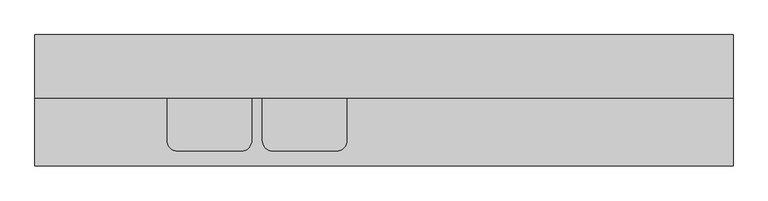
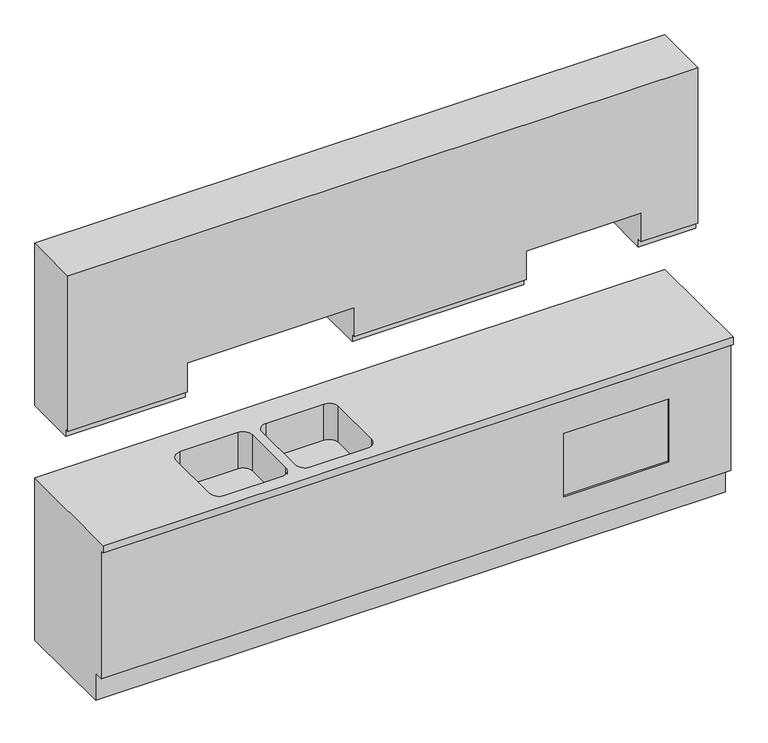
"""IFC4 building model written with IfcOpenShell, lengths in millimetres: furniture geometry, NL_73_aanrechtblok : met kastjes zonder koken."""

import ifcopenshell
import ifcopenshell.guid

model = None  # the IFC model being written
_history = None  # IfcOwnerHistory: only IFC2X3 demands one
_inside = {}  # id of a spatial element -> (the spatial element, [elements in it])
_under = {}  # id of a project, library or spatial element -> (it, [spatial elements below it])
_declared = {}  # id of a project -> (the project, [libraries it declares])
_typed = {}  # id of a type object -> (the type object, [elements of that type])
_made_of = {}  # id of a material, layer set ... -> (it, [elements and type objects made of it])


def new_model(schema):
    """Start an empty IFC model of exactly this schema.

    Asked for "IFC4X3", IfcOpenShell would pick the latest addendum, in which some entities
    have other attributes; the version numbers below select the first issue.
    IFC2X3 requires an IfcOwnerHistory on every rooted entity: one is made here for all.
    """
    global model, _history
    if schema == "IFC4X3":
        model = ifcopenshell.file(schema_version=(4, 3, 0, 0))
    else:
        model = ifcopenshell.file(schema=schema)
    _inside.clear()
    _under.clear()
    _declared.clear()
    _typed.clear()
    _made_of.clear()
    _history = None
    if model.schema == "IFC2X3":
        org = make("IfcOrganization", Name="unknown")
        user = make(
            "IfcPersonAndOrganization",
            ThePerson=make("IfcPerson", FamilyName="unknown"),
            TheOrganization=org,
        )
        app = make(
            "IfcApplication",
            ApplicationDeveloper=org,
            Version="unknown",
            ApplicationFullName="unknown",
            ApplicationIdentifier="unknown",
        )
        _history = make(
            "IfcOwnerHistory",
            OwningUser=user,
            OwningApplication=app,
            ChangeAction="ADDED",
            CreationDate=0,
        )
    return model


def make(cls, **values):
    """One entity of the class cls with the attributes given. An attribute that is None is left unset."""
    return model.create_entity(
        cls, **{name: value for name, value in values.items() if value is not None}
    )


def rooted(cls, **values):
    """An entity with a GlobalId (a new one), such as an element, a storey or a relation."""
    return make(cls, GlobalId=ifcopenshell.guid.new(), OwnerHistory=_history, **values)


def si_unit(unit_type, name, prefix=None):
    """IfcSIUnit, for example si_unit("LENGTHUNIT", "METRE", prefix="MILLI")."""
    return make("IfcSIUnit", UnitType=unit_type, Prefix=prefix, Name=name)


def assignment(units):
    """IfcUnitAssignment: the units of a project."""
    return None if units is None else make("IfcUnitAssignment", Units=units)


def point(xyz):
    """IfcCartesianPoint."""
    return None if xyz is None else make("IfcCartesianPoint", Coordinates=xyz)


def direction(xyz):
    """IfcDirection."""
    return None if xyz is None else make("IfcDirection", DirectionRatios=xyz)


def frame(location, z_axis=None, x_axis=None):
    """IfcAxis2Placement3D, a coordinate frame: its origin and axes. An axis left out is left unset."""
    return make(
        "IfcAxis2Placement3D",
        Location=point(location),
        Axis=direction(z_axis),
        RefDirection=direction(x_axis),
    )


def origin():
    """The frame at (0, 0, 0) with its axes left unset."""
    return frame((0.0, 0.0, 0.0))


def place(relative_to, where):
    """IfcLocalPlacement: puts the frame where relative to a parent placement (None: the world)."""
    return make(
        "IfcLocalPlacement", PlacementRelTo=relative_to, RelativePlacement=where
    )


def context(
    kind, dimensions, precision=None, world=None, true_north=None, identifier=None
):
    """IfcGeometricRepresentationContext, for example the 3D "Model" context."""
    return make(
        "IfcGeometricRepresentationContext",
        ContextIdentifier=identifier,
        ContextType=kind,
        CoordinateSpaceDimension=dimensions,
        Precision=precision,
        WorldCoordinateSystem=world,
        TrueNorth=true_north,
    )


def project(units=None, contexts=None):
    """IfcProject with its units and contexts."""
    return rooted(
        "IfcProject",
        Name="project",
        RepresentationContexts=contexts,
        UnitsInContext=assignment(units),
    )


def spatial(cls, under=None, at=None, **own):
    """A site, building, storey or space (cls), placed at a placement, below another one or the project."""
    s = rooted(cls, ObjectPlacement=at, **own)
    if under is not None:
        _under.setdefault(under.id(), (under, []))[1].append(s)
    return s


def polyline(points):
    """IfcPolyline through the points."""
    return make("IfcPolyline", Points=[point(p) for p in points])


def circle_curve(where, radius):
    """IfcCircle in the frame where."""
    return make("IfcCircle", Position=where, Radius=radius)


def faces_of(points, faces, orient=None, outer=None):
    """IfcFace entities. A face is a list of loops; a loop is a list of indices into points, from 0.

    orient and outer hold one flag for each loop. By default every Orientation is true, the
    first loop of a face is its IfcFaceOuterBound and the others are IfcFaceBound.
    """
    made = []
    for i, loops in enumerate(faces):
        bounds = []
        for j, loop in enumerate(loops):
            is_outer = j == 0 if outer is None else outer[i][j]
            bounds.append(
                make(
                    "IfcFaceOuterBound" if is_outer else "IfcFaceBound",
                    Bound=make("IfcPolyLoop", Polygon=[points[k] for k in loop]),
                    Orientation=True if orient is None else orient[i][j],
                )
            )
        made.append(make("IfcFace", Bounds=bounds))
    return made


def faceted_brep(points, faces, orient=None, outer=None, voids=None):
    """IfcFacetedBrep: a solid bounded by flat faces; with voids (closed shells), ...WithVoids."""
    shared = [point(p) for p in points]
    hull = make("IfcClosedShell", CfsFaces=faces_of(shared, faces, orient, outer))
    if voids is None:
        return make("IfcFacetedBrep", Outer=hull)
    return make(
        "IfcFacetedBrepWithVoids",
        Outer=hull,
        Voids=[
            make(cls, CfsFaces=faces_of(shared, fs, o, b)) for cls, fs, o, b in voids
        ],
    )


def shape(context_of_items, identifier, shape_type, items):
    """IfcShapeRepresentation: the items that make up one representation, for example the "Body"."""
    return make(
        "IfcShapeRepresentation",
        ContextOfItems=context_of_items,
        RepresentationIdentifier=identifier,
        RepresentationType=shape_type,
        Items=items,
    )


def source(mapping_origin, context_of_items, identifier, shape_type, items):
    """IfcRepresentationMap: a shape defined once, which mapped items show again and again."""
    return make(
        "IfcRepresentationMap",
        MappingOrigin=mapping_origin,
        MappedRepresentation=shape(context_of_items, identifier, shape_type, items),
    )


def transform(
    local_origin,
    x_axis=None,
    y_axis=None,
    z_axis=None,
    scale=None,
    scale2=None,
    scale3=None,
    uniform=True,
):
    """IfcCartesianTransformationOperator3D, or its non-uniform kind. x_axis, y_axis, z_axis: its Axis1, 2, 3."""
    if uniform:
        return make(
            "IfcCartesianTransformationOperator3D",
            Axis1=direction(x_axis),
            Axis2=direction(y_axis),
            LocalOrigin=point(local_origin),
            Scale=scale,
            Axis3=direction(z_axis),
        )
    return make(
        "IfcCartesianTransformationOperator3DnonUniform",
        Axis1=direction(x_axis),
        Axis2=direction(y_axis),
        LocalOrigin=point(local_origin),
        Scale=scale,
        Axis3=direction(z_axis),
        Scale2=scale2,
        Scale3=scale3,
    )


def mapped(mapping_source, mapping_target):
    """IfcMappedItem: shows the shape of a source again, moved by a transform."""
    return make(
        "IfcMappedItem", MappingSource=mapping_source, MappingTarget=mapping_target
    )


def made_of(thing, what):
    """Note that an element or type object is made of a material, layer set ...; save() writes the relation."""
    if what is not None:
        _made_of.setdefault(what.id(), (what, []))[1].append(thing)
    return thing


def element(
    cls,
    number,
    at=None,
    inside=None,
    cuts=None,
    type_object=None,
    material=None,
    context=None,
    identifier="Body",
    shape_type=None,
    held_by="IfcProductDefinitionShape",
    body=None,
    shapes=None,
    **own,
):
    """One element of the class cls, such as IfcWall. Its Tag is "e" and its number.

    at: its placement. inside: the storey or other place that contains it. cuts: it is an
    opening in that element (IfcRelVoidsElement). A single representation is given by context,
    identifier, shape_type and body (its items); several are given by shapes. held_by: the class
    of the entity that holds the representations. save() writes the other relations.
    """
    e = rooted(cls, Tag="e%d" % number, ObjectPlacement=at, **own)
    if body is not None:
        shapes = [shape(context, identifier, shape_type, body)]
    if shapes is not None:
        e.Representation = make(held_by, Representations=shapes)
    if inside is not None:
        _inside.setdefault(inside.id(), (inside, []))[1].append(e)
    if cuts is not None:
        rooted(
            "IfcRelVoidsElement", RelatingBuildingElement=cuts, RelatedOpeningElement=e
        )
    if type_object is not None:
        _typed.setdefault(type_object.id(), (type_object, []))[1].append(e)
    return made_of(e, material)


def aggregate(whole, parts):
    """IfcRelAggregates: a whole, such as a stair, and the parts it consists of."""
    return rooted("IfcRelAggregates", RelatingObject=whole, RelatedObjects=parts)


def save(model, path):
    """Write the relations noted so far, then the file.

    IfcRelAggregates (storeys below a building ...), IfcRelContainedInSpatialStructure (elements
    in a storey), IfcRelDefinesByType, IfcRelAssociatesMaterial and IfcRelDeclares: one each for
    every whole, place, type object, material and project.
    """
    for whole, parts in _under.values():
        aggregate(whole, parts)
    for where, things in _inside.values():
        rooted(
            "IfcRelContainedInSpatialStructure",
            RelatedElements=things,
            RelatingStructure=where,
        )
    for kind, things in _typed.values():
        rooted("IfcRelDefinesByType", RelatedObjects=things, RelatingType=kind)
    for what, things in _made_of.values():
        rooted("IfcRelAssociatesMaterial", RelatedObjects=things, RelatingMaterial=what)
    for by, libraries in _declared.values():
        rooted("IfcRelDeclares", RelatingContext=by, RelatedDefinitions=libraries)
    model.write(path)


def plane_surface(at):
    """IfcPlane: the flat surface through the origin of the frame at, square to its z axis."""
    return make("IfcPlane", Position=at)


def revolved_surface(curve, axis_point, axis_direction):
    """IfcSurfaceOfRevolution: the curve turned about the line through axis_point along axis_direction."""
    return make(
        "IfcSurfaceOfRevolution",
        SweptCurve=make("IfcArbitraryOpenProfileDef", ProfileType="CURVE", Curve=curve),
        AxisPosition=make("IfcAxis1Placement", Location=point(axis_point), Axis=direction(axis_direction)),
    )


def advanced_brep(points, edges, surfaces, faces):
    """IfcAdvancedBrep: a solid bounded by faces that lie on surfaces and meet in shared edges.

    An edge is (start, end): straight between two places in points (the first is 0);
    or (start, end, curve); or (start, end, curve, False) where it runs against its curve.
    A face is (place in surfaces, loops), or (place, loops, False) where it looks against
    its surface's normal. A loop lists edges by number (the first is 1), with a minus sign
    where the edge is run from its end to its start. The first loop is the outer one.
    """
    corners = [point(p) for p in points]
    vertices = [make("IfcVertexPoint", VertexGeometry=c) for c in corners]
    made = []
    for start, end, *more in edges:
        made.append(
            make(
                "IfcEdgeCurve",
                EdgeStart=vertices[start],
                EdgeEnd=vertices[end],
                EdgeGeometry=more[0] if more else make("IfcPolyline", Points=[corners[start], corners[end]]),
                SameSense=more[1] if len(more) > 1 else True,
            )
        )
    hull = []
    for where, loops, *sense in faces:
        bounds = []
        for j, loop in enumerate(loops):
            ring = [make("IfcOrientedEdge", EdgeElement=made[abs(k) - 1], Orientation=k > 0) for k in loop]
            bounds.append(
                make(
                    "IfcFaceOuterBound" if j == 0 else "IfcFaceBound",
                    Bound=make("IfcEdgeLoop", EdgeList=ring),
                    Orientation=True,
                )
            )
        hull.append(make("IfcAdvancedFace", Bounds=bounds, FaceSurface=surfaces[where], SameSense=sense[0] if sense else True))
    return make("IfcAdvancedBrep", Outer=make("IfcClosedShell", CfsFaces=hull))


def furniture_5de0abab(model_context):
    return source(origin(), model_context, "Body", "SolidModel", [
        advanced_brep(
        [(-1913.5686582, -550.0, 0.0), (-1913.5686582, -550.0, 150.0), (-1913.5686582, -600.0, 150.0), (-1913.5686582, -600.0, 860.0), (-1913.5686582, -620.0, 860.0), (-1913.5686582, -620.0, 900.0), (-1913.5686582, 0.0, 900.0), (-1913.5686582, 0.0, 0.0), (1386.4313418, -550.0, 0.0), (1386.4313418, 0.0, 0.0), (1386.4313418, 0.0, 900.0), (1386.4313418, -620.0, 900.0), (1386.4313418, -620.0, 860.0), (1386.4313418, -600.0, 860.0), (1386.4313418, -600.0, 150.0), (1386.4313418, -550.0, 150.0), (1061.4313418, -600.0, 660.0), (1061.4313418, -600.0, 310.0), (511.4313418, -600.0, 310.0), (511.4313418, -600.0, 660.0), (-1238.5686582, -150.0, 900.0), (-938.5686582, -150.0, 900.0), (-888.5686582, -200.0, 900.0), (-888.5686582, -500.0, 900.0), (-938.5686582, -550.0, 900.0), (-1238.5686582, -550.0, 900.0), (-1288.5686582, -500.0, 900.0), (-1288.5686582, -200.0, 900.0), (-788.5686582, -150.0, 900.0), (-488.5686582, -150.0, 900.0), (-438.5686582, -200.0, 900.0), (-438.5686582, -500.0, 900.0), (-488.5686582, -550.0, 900.0), (-788.5686582, -550.0, 900.0), (-838.5686582, -500.0, 900.0), (-838.5686582, -200.0, 900.0), (-938.5686582, -150.0, 700.0), (-1238.5686582, -150.0, 700.0), (-1288.5686582, -200.0, 700.0), (-1288.5686582, -500.0, 700.0), (-1238.5686582, -550.0, 700.0), (-938.5686582, -550.0, 700.0), (-888.5686582, -500.0, 700.0), (-888.5686582, -200.0, 700.0), (-488.5686582, -150.0, 700.0), (-788.5686582, -150.0, 700.0), (-838.5686582, -200.0, 700.0), (-838.5686582, -500.0, 700.0), (-788.5686582, -550.0, 700.0), (-488.5686582, -550.0, 700.0), (-438.5686582, -500.0, 700.0), (-438.5686582, -200.0, 700.0), (1061.4313418, -590.0, 660.0), (511.4313418, -590.0, 660.0), (511.4313418, -590.0, 310.0), (1061.4313418, -590.0, 310.0)],
        [
            (0, 1),
            (1, 2),
            (2, 3),
            (3, 4),
            (4, 5),
            (5, 6),
            (6, 7),
            (7, 0),
            (8, 9),
            (9, 10),
            (10, 11),
            (11, 12),
            (12, 13),
            (13, 14),
            (14, 15),
            (15, 8),
            (0, 8),
            (15, 1),
            (14, 2),
            (13, 3),
            (16, 17),
            (17, 18),
            (18, 19),
            (19, 16),
            (12, 4),
            (11, 5),
            (10, 6),
            (20, 21),
            (21, 22, circle_curve(frame((-938.5686582, -200.0, 900.0), z_axis=(0.0, 0.0, -1.0), x_axis=(0.0, -1.0, 0.0)), 50.0)),
            (22, 23),
            (23, 24, circle_curve(frame((-938.5686582, -500.0, 900.0), z_axis=(0.0, 0.0, -1.0), x_axis=(0.0, -1.0, 0.0)), 50.0)),
            (24, 25),
            (25, 26, circle_curve(frame((-1238.5686582, -500.0, 900.0), z_axis=(0.0, 0.0, -1.0), x_axis=(0.0, -1.0, 0.0)), 50.0)),
            (26, 27),
            (27, 20, circle_curve(frame((-1238.5686582, -200.0, 900.0), z_axis=(0.0, 0.0, -1.0), x_axis=(0.0, -1.0, 0.0)), 50.0)),
            (28, 29),
            (29, 30, circle_curve(frame((-488.5686582, -200.0, 900.0), z_axis=(0.0, 0.0, -1.0), x_axis=(0.0, -1.0, 0.0)), 50.0)),
            (30, 31),
            (31, 32, circle_curve(frame((-488.5686582, -500.0, 900.0), z_axis=(0.0, 0.0, -1.0), x_axis=(0.0, -1.0, 0.0)), 50.0)),
            (32, 33),
            (33, 34, circle_curve(frame((-788.5686582, -500.0, 900.0), z_axis=(0.0, 0.0, -1.0), x_axis=(0.0, -1.0, 0.0)), 50.0)),
            (34, 35),
            (35, 28, circle_curve(frame((-788.5686582, -200.0, 900.0), z_axis=(0.0, 0.0, -1.0), x_axis=(0.0, -1.0, 0.0)), 50.0)),
            (9, 7),
            (36, 37),
            (37, 38, circle_curve(frame((-1238.5686582, -200.0, 700.0), z_axis=(0.0, 0.0, 1.0), x_axis=(0.0, -1.0, 0.0)), 50.0)),
            (38, 39),
            (39, 40, circle_curve(frame((-1238.5686582, -500.0, 700.0), z_axis=(0.0, 0.0, 1.0), x_axis=(0.0, -1.0, 0.0)), 50.0)),
            (40, 41),
            (41, 42, circle_curve(frame((-938.5686582, -500.0, 700.0), z_axis=(0.0, 0.0, 1.0), x_axis=(0.0, -1.0, 0.0)), 50.0)),
            (42, 43),
            (43, 36, circle_curve(frame((-938.5686582, -200.0, 700.0), z_axis=(0.0, 0.0, 1.0), x_axis=(0.0, -1.0, 0.0)), 50.0)),
            (36, 21),
            (20, 37),
            (27, 38),
            (26, 39),
            (25, 40),
            (24, 41),
            (23, 42),
            (22, 43),
            (44, 45),
            (45, 46, circle_curve(frame((-788.5686582, -200.0, 700.0), z_axis=(0.0, 0.0, 1.0), x_axis=(0.0, -1.0, 0.0)), 50.0)),
            (46, 47),
            (47, 48, circle_curve(frame((-788.5686582, -500.0, 700.0), z_axis=(0.0, 0.0, 1.0), x_axis=(0.0, -1.0, 0.0)), 50.0)),
            (48, 49),
            (49, 50, circle_curve(frame((-488.5686582, -500.0, 700.0), z_axis=(0.0, 0.0, 1.0), x_axis=(0.0, -1.0, 0.0)), 50.0)),
            (50, 51),
            (51, 44, circle_curve(frame((-488.5686582, -200.0, 700.0), z_axis=(0.0, 0.0, 1.0), x_axis=(0.0, -1.0, 0.0)), 50.0)),
            (44, 29),
            (28, 45),
            (35, 46),
            (34, 47),
            (33, 48),
            (32, 49),
            (31, 50),
            (30, 51),
            (52, 53),
            (53, 54),
            (54, 55),
            (55, 52),
            (55, 17),
            (16, 52),
            (54, 18),
            (53, 19),
        ],
        [
            plane_surface(frame((-1913.5686582, 0.0, -1092.8860874), z_axis=(-1.0, 0.0, 0.0), x_axis=(0.0, 1.0, 0.0))),
            plane_surface(frame((1386.4313418, 0.0, -1092.8860874), z_axis=(1.0, 0.0, 0.0), x_axis=(0.0, 1.0, 0.0))),
            plane_surface(frame((-1913.5686582, -550.0, 0.0), z_axis=(0.0, -1.0, 0.0), x_axis=(1.0, 0.0, 0.0))),
            plane_surface(frame((-1913.5686582, -550.0, 150.0), z_axis=(0.0, 0.0, -1.0), x_axis=(1.0, 0.0, 0.0))),
            plane_surface(frame((-1913.5686582, -600.0, 150.0), z_axis=(0.0, -1.0, 0.0), x_axis=(1.0, 0.0, 0.0))),
            plane_surface(frame((-1913.5686582, -600.0, 860.0), z_axis=(0.0, 0.0, -1.0), x_axis=(1.0, 0.0, 0.0))),
            plane_surface(frame((-1913.5686582, -620.0, 860.0), z_axis=(0.0, -1.0, 0.0), x_axis=(1.0, 0.0, 0.0))),
            plane_surface(frame((-1913.5686582, -620.0, 900.0), z_axis=(0.0, 0.0, 1.0), x_axis=(1.0, 0.0, 0.0))),
            plane_surface(frame((-1913.5686582, 0.0, 900.0), z_axis=(0.0, 1.0, 0.0), x_axis=(1.0, 0.0, 0.0))),
            plane_surface(frame((-1913.5686582, 0.0, 0.0), z_axis=(0.0, 0.0, -1.0), x_axis=(1.0, 0.0, 0.0))),
            plane_surface(frame((-1238.5686582, -150.0, 700.0), z_axis=(0.0, 0.0, 1.0), x_axis=(1.0, 0.0, 0.0))),
            plane_surface(frame((-938.5686582, -150.0, 900.0), z_axis=(0.0, -1.0, 0.0), x_axis=(0.0, 0.0, -1.0))),
            revolved_surface(polyline([(-1238.5686582, -250.0, 900.0), (-1238.5686582, -250.0, 700.0)]), (-1238.5686582, -200.0, 700.0), (0.0, 0.0, 1.0)),
            plane_surface(frame((-1288.5686582, -200.0, 900.0), z_axis=(1.0, 0.0, 0.0), x_axis=(0.0, 0.0, -1.0))),
            revolved_surface(polyline([(-1238.5686582, -550.0, 900.0), (-1238.5686582, -550.0, 700.0)]), (-1238.5686582, -500.0, 700.0), (0.0, 0.0, 1.0)),
            plane_surface(frame((-1238.5686582, -550.0, 900.0), z_axis=(0.0, 1.0, 0.0), x_axis=(0.0, 0.0, -1.0))),
            revolved_surface(polyline([(-938.5686582, -550.0, 900.0), (-938.5686582, -550.0, 700.0)]), (-938.5686582, -500.0, 700.0), (0.0, 0.0, 1.0)),
            plane_surface(frame((-888.5686582, -500.0, 900.0), z_axis=(-1.0, 0.0, 0.0), x_axis=(0.0, 0.0, -1.0))),
            revolved_surface(polyline([(-938.5686582, -250.0, 900.0), (-938.5686582, -250.0, 700.0)]), (-938.5686582, -200.0, 700.0), (0.0, 0.0, 1.0)),
            plane_surface(frame((-788.5686582, -150.0, 700.0), z_axis=(0.0, 0.0, 1.0), x_axis=(1.0, 0.0, 0.0))),
            plane_surface(frame((-488.5686582, -150.0, 900.0), z_axis=(0.0, -1.0, 0.0), x_axis=(0.0, 0.0, -1.0))),
            revolved_surface(polyline([(-788.5686582, -250.0, 900.0), (-788.5686582, -250.0, 700.0)]), (-788.5686582, -200.0, 700.0), (0.0, 0.0, 1.0)),
            plane_surface(frame((-838.5686582, -200.0, 900.0), z_axis=(1.0, 0.0, 0.0), x_axis=(0.0, 0.0, -1.0))),
            revolved_surface(polyline([(-788.5686582, -550.0, 900.0), (-788.5686582, -550.0, 700.0)]), (-788.5686582, -500.0, 700.0), (0.0, 0.0, 1.0)),
            plane_surface(frame((-788.5686582, -550.0, 900.0), z_axis=(0.0, 1.0, 0.0), x_axis=(0.0, 0.0, -1.0))),
            revolved_surface(polyline([(-488.5686582, -550.0, 900.0), (-488.5686582, -550.0, 700.0)]), (-488.5686582, -500.0, 700.0), (0.0, 0.0, 1.0)),
            plane_surface(frame((-438.5686582, -500.0, 900.0), z_axis=(-1.0, 0.0, 0.0), x_axis=(0.0, 0.0, -1.0))),
            revolved_surface(polyline([(-488.5686582, -250.0, 900.0), (-488.5686582, -250.0, 700.0)]), (-488.5686582, -200.0, 700.0), (0.0, 0.0, 1.0)),
            plane_surface(frame((1061.4313418, -590.0, 660.0), z_axis=(0.0, -1.0, 0.0), x_axis=(0.0, 0.0, -1.0))),
            plane_surface(frame((1061.4313418, -590.0, 660.0), z_axis=(-1.0, 0.0, 0.0), x_axis=(0.0, -1.0, 0.0))),
            plane_surface(frame((1061.4313418, -590.0, 310.0), z_axis=(0.0, 0.0, 1.0), x_axis=(0.0, -1.0, 0.0))),
            plane_surface(frame((511.4313418, -590.0, 310.0), z_axis=(1.0, 0.0, 0.0), x_axis=(0.0, -1.0, 0.0))),
            plane_surface(frame((511.4313418, -590.0, 660.0), z_axis=(0.0, 0.0, -1.0), x_axis=(0.0, -1.0, 0.0))),
        ],
        [
            (0, [[1, 2, 3, 4, 5, 6, 7, 8]]),
            (1, [[9, 10, 11, 12, 13, 14, 15, 16]]),
            (2, [[-1, 17, -16, 18]]),
            (3, [[-2, -18, -15, 19]]),
            (4, [[-3, -19, -14, 20], [21, 22, 23, 24]]),
            (5, [[-4, -20, -13, 25]]),
            (6, [[-5, -25, -12, 26]]),
            (7, [[-6, -26, -11, 27], [28, 29, 30, 31, 32, 33, 34, 35], [36, 37, 38, 39, 40, 41, 42, 43]]),
            (8, [[-7, -27, -10, 44]]),
            (9, [[-8, -44, -9, -17]]),
            (10, [[45, 46, 47, 48, 49, 50, 51, 52]]),
            (11, [[-45, 53, -28, 54]]),
            (12, [[-46, -54, -35, 55]]),
            (13, [[-47, -55, -34, 56]]),
            (14, [[-48, -56, -33, 57]]),
            (15, [[-49, -57, -32, 58]]),
            (16, [[-50, -58, -31, 59]]),
            (17, [[-51, -59, -30, 60]]),
            (18, [[-52, -60, -29, -53]]),
            (19, [[61, 62, 63, 64, 65, 66, 67, 68]]),
            (20, [[-61, 69, -36, 70]]),
            (21, [[-62, -70, -43, 71]]),
            (22, [[-63, -71, -42, 72]]),
            (23, [[-64, -72, -41, 73]]),
            (24, [[-65, -73, -40, 74]]),
            (25, [[-66, -74, -39, 75]]),
            (26, [[-67, -75, -38, 76]]),
            (27, [[-68, -76, -37, -69]]),
            (28, [[77, 78, 79, 80]]),
            (29, [[-80, 81, -21, 82]]),
            (30, [[-79, 83, -22, -81]]),
            (31, [[-78, 84, -23, -83]]),
            (32, [[-77, -82, -24, -84]]),
        ],
    ),
        faceted_brep([(-1913.5686582, -300.0, 2200.0), (-1913.5686582, 0.0, 2200.0), (-1913.5686582, 0.0, 1300.0), (-1913.5686582, -280.0, 1300.0), (-1913.5686582, -280.0, 1340.0), (-1913.5686582, -300.0, 1340.0), (1386.4313418, -300.0, 2200.0), (1386.4313418, -300.0, 1340.0), (1386.4313418, -280.0, 1340.0), (1386.4313418, -280.0, 1300.0), (1386.4313418, 0.0, 1300.0), (1386.4313418, 0.0, 2200.0), (1086.4313418, 0.0, 1300.0), (1086.4313418, 0.0, 1500.0), (486.4313418, 0.0, 1500.0), (486.4313418, 0.0, 1300.0), (-413.5686582, 0.0, 1300.0), (-413.5686582, 0.0, 1500.0), (-1288.5686582, 0.0, 1500.0), (-1288.5686582, 0.0, 1300.0), (-1288.5686582, -280.0, 1300.0), (1086.4313418, -280.0, 1300.0), (-413.5686582, -280.0, 1300.0), (486.4313418, -280.0, 1300.0), (-1288.5686582, -280.0, 1340.0), (1086.4313418, -280.0, 1340.0), (-413.5686582, -280.0, 1340.0), (486.4313418, -280.0, 1340.0), (-1288.5686582, -300.0, 1340.0), (1086.4313418, -300.0, 1340.0), (-413.5686582, -300.0, 1340.0), (486.4313418, -300.0, 1340.0), (-1288.5686582, -300.0, 1500.0), (-413.5686582, -300.0, 1500.0), (486.4313418, -300.0, 1500.0), (1086.4313418, -300.0, 1500.0)], [[[0, 1, 2, 3, 4, 5]], [[6, 7, 8, 9, 10, 11]], [[1, 0, 6, 11]], [[2, 1, 11, 10, 12, 13, 14, 15, 16, 17, 18, 19]], [[3, 2, 19, 20]], [[10, 9, 21, 12]], [[22, 16, 15, 23]], [[4, 3, 20, 24]], [[9, 8, 25, 21]], [[26, 22, 23, 27]], [[5, 4, 24, 28]], [[8, 7, 29, 25]], [[30, 26, 27, 31]], [[0, 5, 28, 32, 33, 30, 31, 34, 35, 29, 7, 6]], [[18, 32, 28, 24, 20, 19]], [[33, 17, 16, 22, 26, 30]], [[32, 18, 17, 33]], [[14, 34, 31, 27, 23, 15]], [[35, 13, 12, 21, 25, 29]], [[34, 14, 13, 35]]]),
    ])


if __name__ == "__main__":
    model = new_model("IFC4")
    model_context = context("Model", 3, world=origin())
    ifc_project = project(units=[si_unit("LENGTHUNIT", "METRE", prefix="MILLI")], contexts=[model_context])
    site = spatial("IfcSite", under=ifc_project)
    building = spatial("IfcBuilding", under=site)
    placement = place(None, origin())
    furniture_shape = furniture_5de0abab(model_context)
    element("IfcFurniture", 1, ObjectType="NL_73_aanrechtblok : met kastjes zonder koken", at=placement, inside=building, context=model_context, shape_type="MappedRepresentation", body=[
        mapped(furniture_shape, transform((0.0, 0.0, 0.0), x_axis=(1.0, 0.0, 0.0), y_axis=(0.0, 1.0, 0.0), z_axis=(0.0, 0.0, 1.0))),
    ])
    save(model, "model.ifc")
